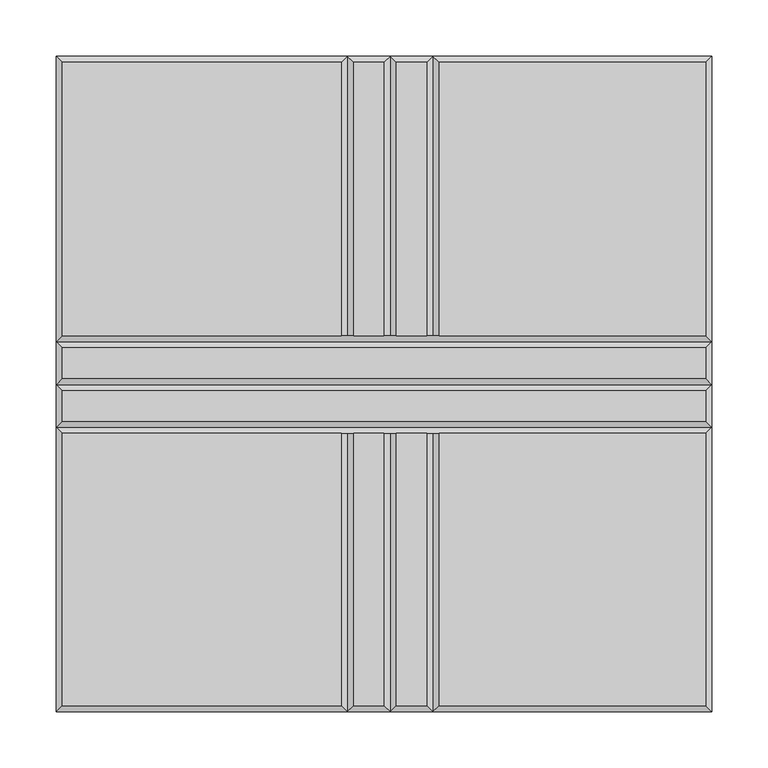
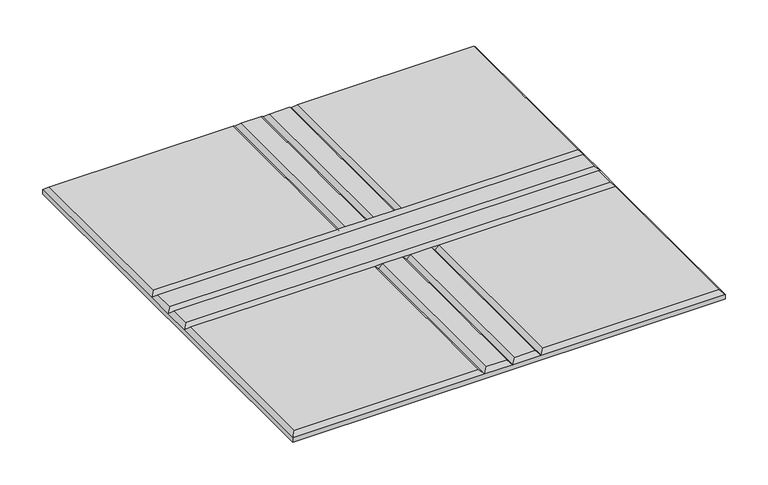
"""IFC4 building model written with IfcOpenShell, lengths in millimetres: proxy geometry, Wall-Panel-Kirei-EchoPanel-Echotile-Racetrack : Instersection Tile."""

from ifc_helpers import new_model, si_unit, origin, place, context, project, spatial, faceted_brep, source, transform, mapped, element, save


def specialty_equipment_d335329e(model_context):
    return source(origin(), model_context, "Body", "Brep", [
        faceted_brep([(-30.9054687, -44.0630399, 12.0054687), (-268.3890625, -44.0630399, 12.0054687), (-268.3890625, -286.5945312, 12.0054687), (-30.9054687, -286.5945312, 12.0054687), (-30.9054687, -5.9630399, 12.0054687), (-604.0945312, -5.9630399, 12.0054687), (-604.0945312, -33.0521024, 12.0054687), (-30.9054687, -33.0521024, 12.0054687), (-30.9054687, 286.5945313, 12.0054687), (-268.3890625, 286.5945313, 12.0054687), (-268.3890625, 43.1478976, 12.0054687), (-30.9054687, 43.1478976, 12.0054687), (-30.9054687, 32.1369601, 12.0054687), (-604.0945312, 32.1369601, 12.0054687), (-604.0945312, 5.0478976, 12.0054687), (-30.9054687, 5.0478976, 12.0054687), (-604.0945312, -286.5945312, 12.0054687), (-355.6, -286.5945312, 12.0054687), (-355.6, -44.0630399, 12.0054687), (-604.0945312, -44.0630399, 12.0054687), (-604.0945312, 43.1478976, 12.0054687), (-355.6, 43.1478976, 12.0054687), (-355.6, 286.5945313, 12.0054687), (-604.0945312, 286.5945313, 12.0054687), (-279.4, -286.5945312, 12.0054687), (-279.4, -44.0630399, 12.0054687), (-306.4890625, -44.0630399, 12.0054687), (-306.4890625, -286.5945312, 12.0054687), (-317.5, -286.5945312, 12.0054687), (-317.5, -44.0630399, 12.0054687), (-344.5890625, -44.0630399, 12.0054687), (-344.5890625, -286.5945312, 12.0054687), (-306.4890625, 286.5945313, 12.0054687), (-306.4890625, 43.1478976, 12.0054687), (-279.4, 43.1478976, 12.0054687), (-279.4, 286.5945313, 12.0054687), (-344.5890625, 286.5945313, 12.0054687), (-344.5890625, 43.1478976, 12.0054687), (-317.5, 43.1478976, 12.0054687), (-317.5, 286.5945313, 12.0054687), (-25.4, -292.1, 0.0), (-609.6, -292.1, 0.0), (-609.6, 292.1, 0.0), (-25.4, 292.1, 0.0), (-25.4, -292.1, 6.5), (-273.8945313, -292.1, 6.5), (-311.9945313, -292.1, 6.5), (-350.0945313, -292.1, 6.5), (-609.6, -292.1, 6.5), (-609.6, -38.5575711, 6.5), (-609.6, -0.4575711, 6.5), (-609.6, 37.6424289, 6.5), (-609.6, 292.1, 6.5), (-350.0945312, 292.1, 6.5), (-311.9945312, 292.1, 6.5), (-273.8945313, 292.1, 6.5), (-25.4, 292.1, 6.5), (-25.4, 37.6424289, 6.5), (-25.4, -0.4575711, 6.5), (-25.4, -38.5575711, 6.5), (-273.8945313, -44.0630399, 6.5), (-311.9945313, -44.0630399, 6.5), (-350.0945313, -44.0630399, 6.5), (-273.8945313, 43.1478976, 6.5), (-311.9945313, 43.1478976, 6.5), (-350.0945313, 43.1478976, 6.5)], [[[0, 1, 2, 3]], [[4, 5, 6, 7]], [[8, 9, 10, 11]], [[12, 13, 14, 15]], [[16, 17, 18, 19]], [[20, 21, 22, 23]], [[24, 25, 26, 27]], [[28, 29, 30, 31]], [[32, 33, 34, 35]], [[36, 37, 38, 39]], [[40, 41, 42, 43]], [[40, 44, 45, 46, 47, 48, 41]], [[41, 48, 49, 50, 51, 52, 42]], [[42, 52, 53, 54, 55, 56, 43]], [[43, 56, 57, 58, 59, 44, 40]], [[8, 11, 57, 56]], [[44, 59, 0, 3]], [[7, 59, 58, 4]], [[15, 58, 57, 12]], [[3, 2, 45, 44]], [[48, 47, 17, 16]], [[27, 46, 45, 24]], [[31, 47, 46, 28]], [[16, 19, 49, 48]], [[52, 51, 20, 23]], [[5, 50, 49, 6]], [[13, 51, 50, 14]], [[23, 22, 53, 52]], [[56, 55, 9, 8]], [[35, 55, 54, 32]], [[39, 54, 53, 36]], [[59, 7, 6, 49]], [[49, 19, 18, 30, 29, 26, 25, 1, 0, 59]], [[58, 15, 14, 50]], [[50, 5, 4, 58]], [[57, 11, 10, 34, 33, 38, 37, 21, 20, 51]], [[51, 13, 12, 57]], [[25, 24, 45, 60]], [[60, 45, 2, 1]], [[29, 28, 46, 61]], [[61, 46, 27, 26]], [[18, 17, 47, 62]], [[62, 47, 31, 30]], [[60, 1, 25]], [[61, 26, 29]], [[62, 30, 18]], [[63, 55, 35, 34]], [[10, 9, 55, 63]], [[64, 54, 39, 38]], [[33, 32, 54, 64]], [[65, 53, 22, 21]], [[37, 36, 53, 65]], [[21, 37, 65]], [[38, 33, 64]], [[34, 10, 63]]]),
    ])


if __name__ == "__main__":
    model = new_model("IFC4")
    model_context = context("Model", 3, world=origin())
    ifc_project = project(units=[si_unit("LENGTHUNIT", "METRE", prefix="MILLI")], contexts=[model_context])
    site = spatial("IfcSite", under=ifc_project)
    building = spatial("IfcBuilding", under=site)
    placement = place(None, origin())
    specialty_equipment_shape = specialty_equipment_d335329e(model_context)
    element("IfcBuildingElementProxy", 1, Name="Wall-Panel-Kirei-EchoPanel-Echotile-Racetrack : Instersection Tile", ObjectType="Wall-Panel-Kirei-EchoPanel-Echotile-Racetrack : Instersection Tile", at=placement, inside=building, context=model_context, shape_type="MappedRepresentation", body=[
        mapped(specialty_equipment_shape, transform((0.0, 0.0, 0.0), x_axis=(1.0, 0.0, 0.0), y_axis=(0.0, 1.0, 0.0), z_axis=(0.0, 0.0, 1.0))),
    ])
    save(model, "model.ifc")
